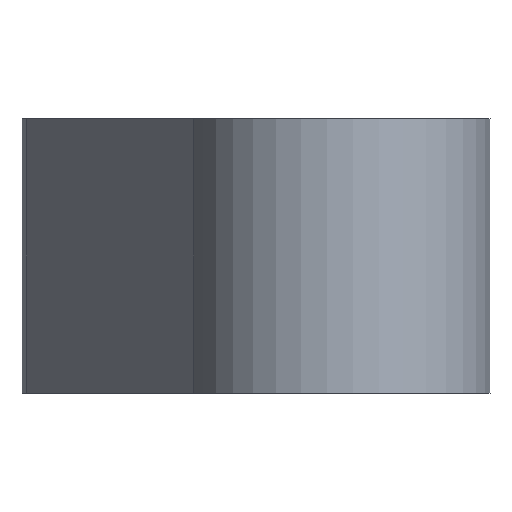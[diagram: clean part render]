
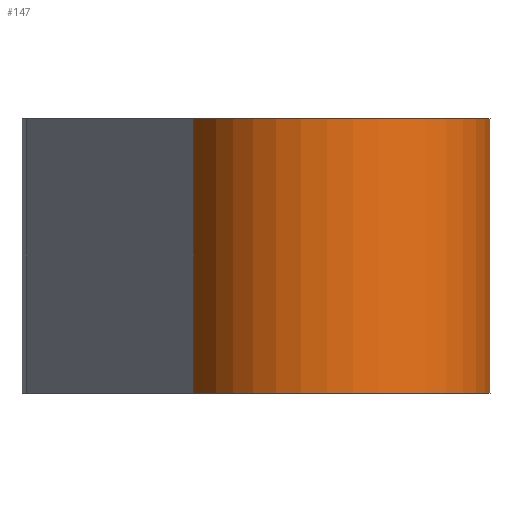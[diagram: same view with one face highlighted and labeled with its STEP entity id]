
A CAD part, front view. The second image highlights one B-rep face of the part: STEP entity #147.
In plain terms, the highlighted cylindrical face has radius 5.5 mm (diameter 11 mm), a partial arc.
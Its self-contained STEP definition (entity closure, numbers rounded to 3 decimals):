
#18=CYLINDRICAL_SURFACE('',#176,5.5);
#29=FACE_OUTER_BOUND('',#39,.T.);
#39=EDGE_LOOP('',(#127,#128,#129,#130));
#47=LINE('',#247,#57);
#52=LINE('',#258,#62);
#57=VECTOR('',#205,10.);
#62=VECTOR('',#216,10.);
#63=CIRCLE('',#164,5.5);
#70=CIRCLE('',#177,5.5);
#71=VERTEX_POINT('',#225);
#72=VERTEX_POINT('',#226);
#79=VERTEX_POINT('',#246);
#82=VERTEX_POINT('',#256);
#83=EDGE_CURVE('',#71,#72,#63,.T.);
#93=EDGE_CURVE('',#79,#72,#47,.T.);
#99=EDGE_CURVE('',#71,#82,#52,.T.);
#100=EDGE_CURVE('',#79,#82,#70,.T.);
#127=ORIENTED_EDGE('',*,*,#99,.T.);
#128=ORIENTED_EDGE('',*,*,#100,.F.);
#129=ORIENTED_EDGE('',*,*,#93,.T.);
#130=ORIENTED_EDGE('',*,*,#83,.F.);
#147=ADVANCED_FACE('',(#29),#18,.T.);
#164=AXIS2_PLACEMENT_3D('',#227,#183,#184);
#176=AXIS2_PLACEMENT_3D('',#259,#217,#218);
#177=AXIS2_PLACEMENT_3D('',#260,#219,#220);
#183=DIRECTION('center_axis',(0.,0.,1.));
#184=DIRECTION('ref_axis',(0.966,0.259,0.));
#205=DIRECTION('',(0.,0.,1.));
#216=DIRECTION('',(0.,0.,-1.));
#217=DIRECTION('center_axis',(0.,0.,-1.));
#218=DIRECTION('ref_axis',(0.966,0.259,0.));
#219=DIRECTION('center_axis',(0.,0.,-1.));
#220=DIRECTION('ref_axis',(0.966,0.259,0.));
#225=CARTESIAN_POINT('',(159.311,189.34,355.5));
#226=CARTESIAN_POINT('',(169.936,192.188,355.5));
#227=CARTESIAN_POINT('Origin',(164.624,190.764,355.5));
#246=CARTESIAN_POINT('',(169.936,192.188,345.5));
#247=CARTESIAN_POINT('',(169.936,192.188,350.5));
#256=CARTESIAN_POINT('',(159.311,189.34,345.5));
#258=CARTESIAN_POINT('',(159.311,189.34,350.5));
#259=CARTESIAN_POINT('Origin',(164.624,190.764,350.5));
#260=CARTESIAN_POINT('Origin',(164.624,190.764,345.5));
